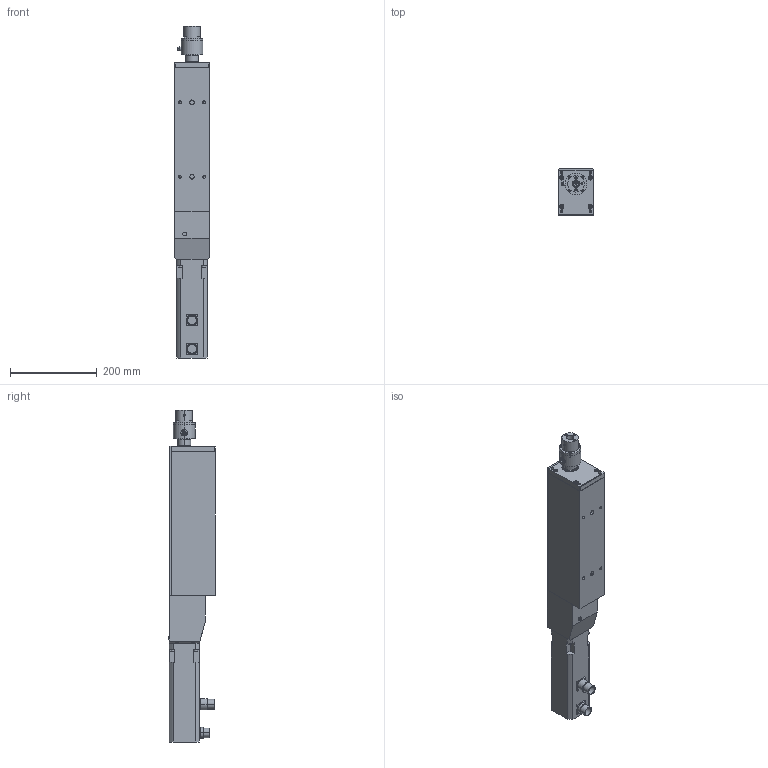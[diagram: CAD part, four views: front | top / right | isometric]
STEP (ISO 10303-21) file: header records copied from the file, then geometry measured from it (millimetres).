
FILE_DESCRIPTION (( 'STEP AP203' ), '1' );
FILE_NAME ('KM PR5ID030-020-025N.STEP', '2019-08-02T06:51:02', ( '' ), ( '' ), 'SwSTEP 2.0', 'SolidWorks 2016', '' );
FILE_SCHEMA (( 'CONFIG_CONTROL_DESIGN' ));
Length unit declared in the file: millimetre
Products named in the file (1): KM PR5ID030-020-025N
Bounding box: 80 x 108 x 766 mm (x, y, z)
Volume: 3615492.5 mm3; surface area: 531523.8 mm2
Topology: 31 solids, 31 shells, 1147 faces, 2670 edges, 1573 vertices
Faces by surface type: plane 448, cylinder 423, cone 218, torus 58
Entity records: 32595 total; most frequent: CARTESIAN_POINT 6215, DIRECTION 5894, ORIENTED_EDGE 5040, EDGE_CURVE 2520, AXIS2_PLACEMENT_3D 2278, VERTEX_POINT 1573, EDGE_LOOP 1395, LINE 1338
